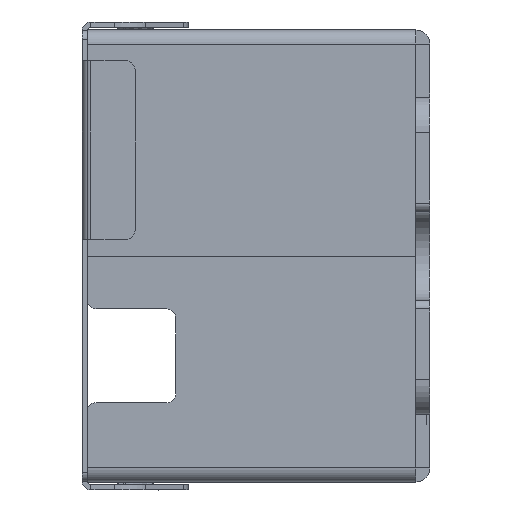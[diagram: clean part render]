
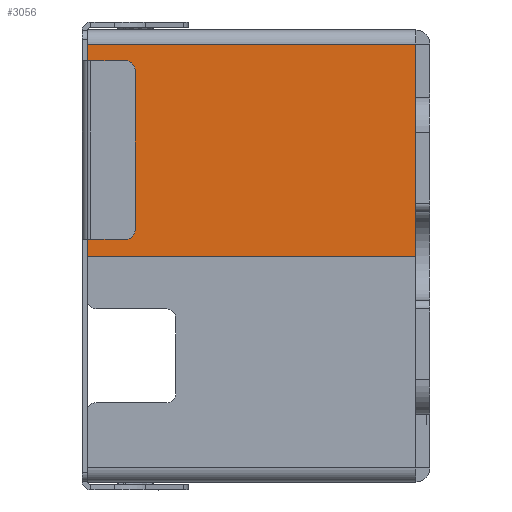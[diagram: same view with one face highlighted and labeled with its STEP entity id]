
A CAD part, left-side view. The second image highlights one B-rep face of the part: STEP entity #3056.
In plain terms, the highlighted planar face has unit normal (-1, 0, 0).
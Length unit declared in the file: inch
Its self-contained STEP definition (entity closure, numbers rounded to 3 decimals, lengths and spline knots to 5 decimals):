
#818=DIRECTION('',(0.,1.,0.));
#819=VECTOR('',#818,0.73228);
#820=CARTESIAN_POINT('',(-2.67531,0.0315,
0.47244));
#821=LINE('',#820,#819);
#832=DIRECTION('',(0.,0.,-1.));
#833=VECTOR('',#832,0.47244);
#834=CARTESIAN_POINT('',(-2.67531,0.76378,
0.47244));
#835=LINE('',#834,#833);
#846=DIRECTION('',(0.,-1.,0.));
#847=VECTOR('',#846,0.73228);
#848=CARTESIAN_POINT('',(-2.67531,0.76378,0.));
#849=LINE('',#848,#847);
#860=DIRECTION('',(0.,0.,1.));
#861=VECTOR('',#860,0.47244);
#862=CARTESIAN_POINT('',(-2.67531,0.0315,0.));
#863=LINE('',#862,#861);
#2303=CARTESIAN_POINT('',(-2.67531,0.0315,
0.47244));
#2304=CARTESIAN_POINT('',(-2.67531,0.76378,
0.47244));
#2305=VERTEX_POINT('',#2303);
#2306=VERTEX_POINT('',#2304);
#2307=CARTESIAN_POINT('',(-2.67531,0.76378,0.));
#2308=VERTEX_POINT('',#2307);
#2309=CARTESIAN_POINT('',(-2.67531,0.0315,0.));
#2310=VERTEX_POINT('',#2309);
#3042=CARTESIAN_POINT('',(-2.67531,0.76378,
0.50394));
#3043=DIRECTION('',(-1.,0.,0.));
#3044=DIRECTION('',(0.,1.,0.));
#3045=AXIS2_PLACEMENT_3D('',#3042,#3043,#3044);
#3046=PLANE('',#3045);
#3048=ORIENTED_EDGE('',*,*,#3047,.F.);
#3049=ORIENTED_EDGE('',*,*,#3032,.F.);
#3051=ORIENTED_EDGE('',*,*,#3050,.F.);
#3053=ORIENTED_EDGE('',*,*,#3052,.F.);
#3054=EDGE_LOOP('',(#3048,#3049,#3051,#3053));
#3055=FACE_OUTER_BOUND('',#3054,.F.);
#3056=ADVANCED_FACE('',(#3055),#3046,.T.);
#3032=EDGE_CURVE('',#2305,#2306,#821,.T.);
#3047=EDGE_CURVE('',#2306,#2308,#835,.T.);
#3050=EDGE_CURVE('',#2310,#2305,#863,.T.);
#3052=EDGE_CURVE('',#2308,#2310,#849,.T.);
